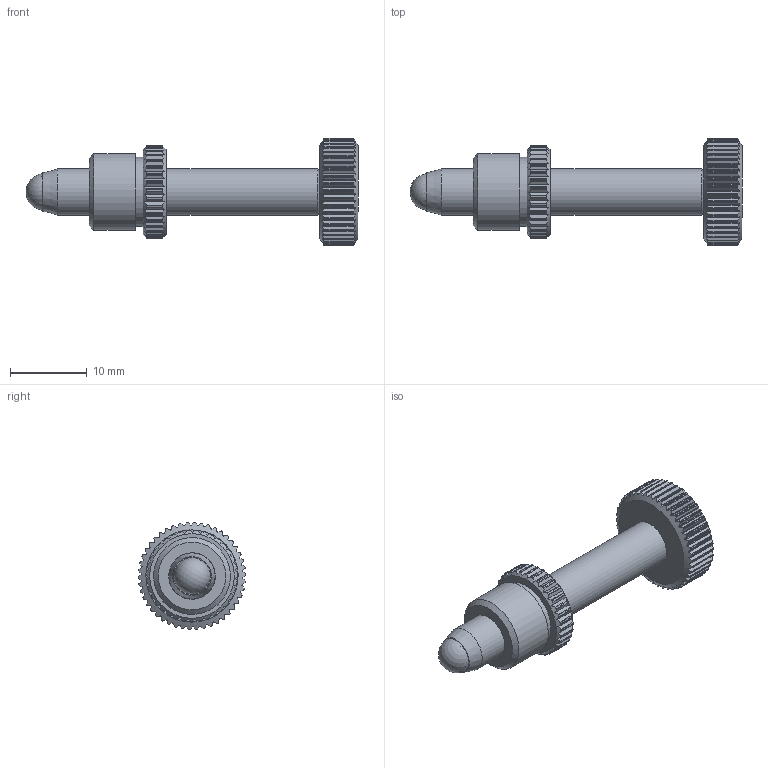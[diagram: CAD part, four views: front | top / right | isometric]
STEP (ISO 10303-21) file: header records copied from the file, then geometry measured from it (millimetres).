
FILE_DESCRIPTION(/* description */ (''),/* implementation_level */ '2;1');
FILE_NAME(/* name */ 'U:\KONSTRUKTORIAI\DOKUMENTACIJA\9\9S127M\STEP\9S127M-25.stp',/* time_stamp */ '2017-02-21T11:10:25+02:00',/* author */ ('dsgn33'),/* organization */ (''),/* preprocessor_version */ 'ST-DEVELOPER v15.2',/* originating_system */ 'Autodesk Inventor 2014',/* authorisation */ '');
FILE_SCHEMA (('AUTOMOTIVE_DESIGN { 1 0 10303 214 3 1 1 }'));
Length unit declared in the file: millimetre
Products named in the file (2): Part50; Assembly8
Bounding box: 43.21 x 14 x 13.99 mm (x, y, z)
Volume: 2196.6 mm3; surface area: 1795.8 mm2
Topology: 1 solids, 3 shells, 781 faces, 2269 edges, 1509 vertices
Faces by surface type: cylinder 390, plane 308, bspline 64, cone 16, sphere 3
Full cylindrical faces by diameter (mm): 1.5 x1, 2 x1, 3 x1, 3.1 x1, 4.6 x1, 6 x2, 9 x1, 10 x1
Entity records: 27558 total; most frequent: CARTESIAN_POINT 8766, ORIENTED_EDGE 4458, DIRECTION 3344, EDGE_CURVE 2228, VERTEX_POINT 1494, AXIS2_PLACEMENT_3D 1222, LINE 900, VECTOR 900
